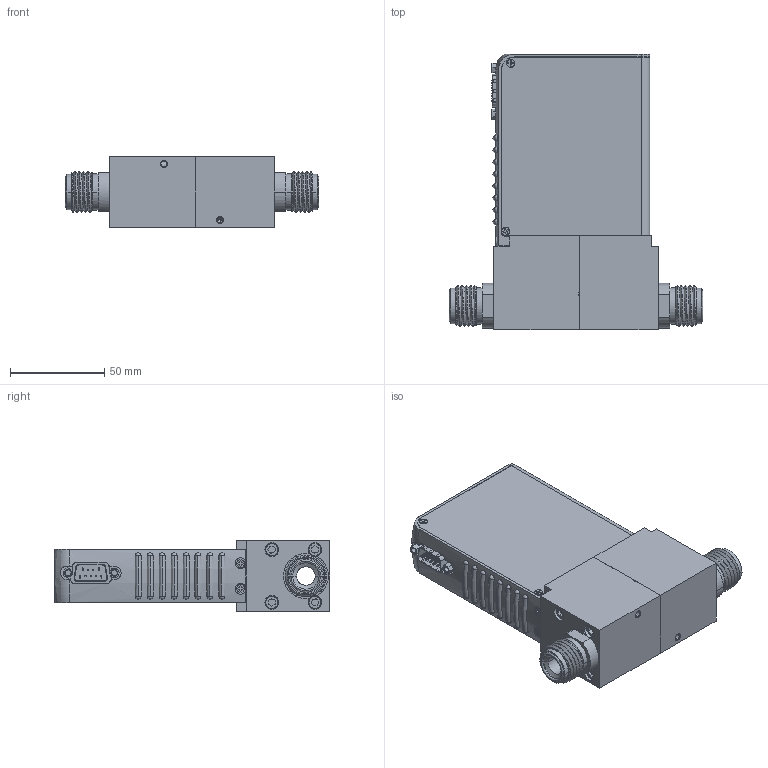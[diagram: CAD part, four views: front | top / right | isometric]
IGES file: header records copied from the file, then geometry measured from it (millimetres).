
Start section: SolidWorks IGES file using analytic representation for surfaces
Global section: file name: G:\Engineering\CAD MODELS FOR SALES\CAD MODEL STORAGE\GF\GF101-121-126\CUSTOMER FILES\IGES\GF101-GF121-GF126-V1-SX.IGS; native system: SolidWorks 2020; preprocessor: SolidWorks 2020; author: CFehr; date: 220725.104524; units: inch
Bounding box: 134.21 x 146.05 x 37.59 mm (x, y, z)
Volume: 113851 mm3; surface area: 98264.5 mm2
Topology: 23 solids, 23 shells, 1247 faces, 3234 edges, 2059 vertices
Faces by surface type: plane 709, revolution 452, bspline 86
